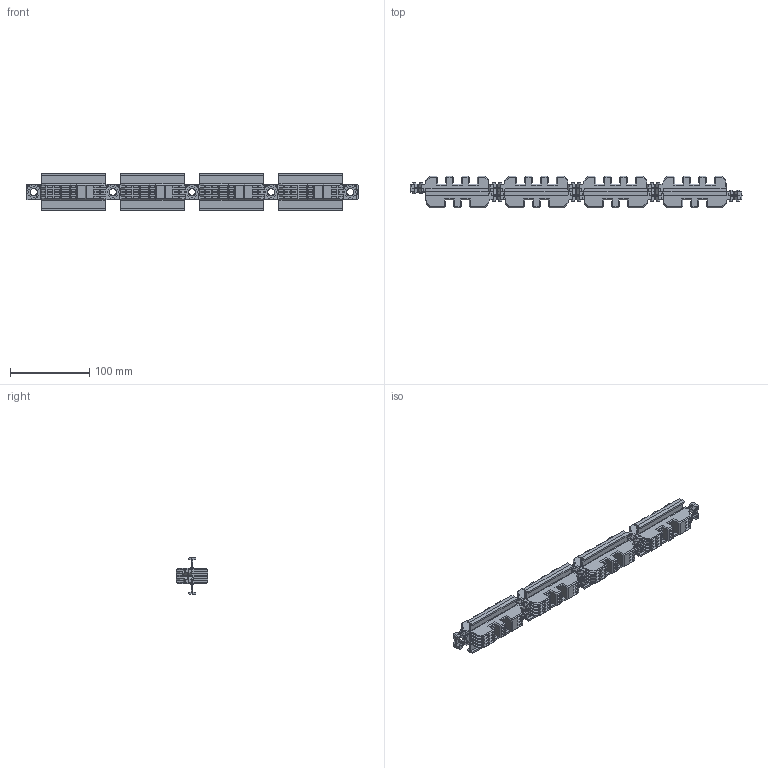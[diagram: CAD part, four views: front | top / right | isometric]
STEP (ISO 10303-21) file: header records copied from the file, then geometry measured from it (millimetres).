
FILE_DESCRIPTION(('CAx-IF Rec.Pracs.---Model Styling and Organization---1.2---2011-12-15','CAx-IF Rec.Pracs.---Geometric and Assembly Validation Properties---4.1---2014-06-16','CAx-IF Rec.Pracs.---PMI Polyline Presentation---2.0---2013-05-24'),'2;1');
FILE_NAME('R5BBMS23104P.stp','2021-05-06T03:19:52+03:00',(''),(''),'STEP Interface 4.4 by CT CoreTechnologie','3D_Evolution4.4 by CT CoreTechnologie','');
FILE_SCHEMA(('AUTOMOTIVE_DESIGN { 1 0 10303 214 1 1 1 1 }'));
Length unit declared in the file: millimetre
Products named in the file (2): R5BBMS23104P; RB.1306.00.00.0_-02
Assembly tree (4 placements, depth 2):
  R5BBMS23104P
    RB.1306.00.00.0_-02  x4
Bounding box: 419.82 x 40 x 45.91 mm (x, y, z)
Surface area: 143643.5 mm2 (no closed solid volume)
Topology: 0 solids, 4 shells, 3736 faces, 9972 edges, 6356 vertices
Faces by surface type: plane 2400, bspline 1044, cylinder 292
Entity records: 39137 total; most frequent: CARTESIAN_POINT 16182, ORIENTED_EDGE 4986, DIRECTION 4536, EDGE_CURVE 2493, VECTOR 1774, LINE 1774, VERTEX_POINT 1589, AXIS2_PLACEMENT_3D 1381
